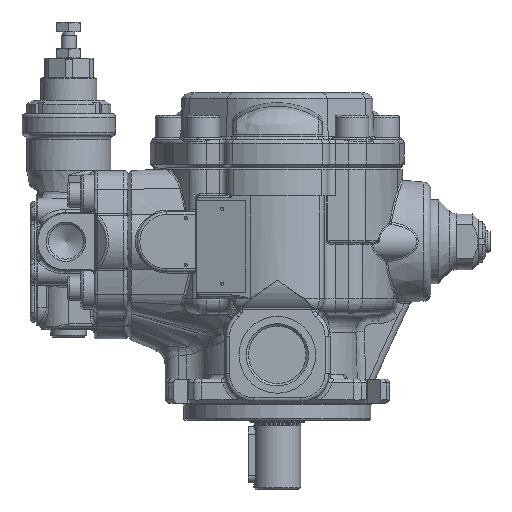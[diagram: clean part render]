
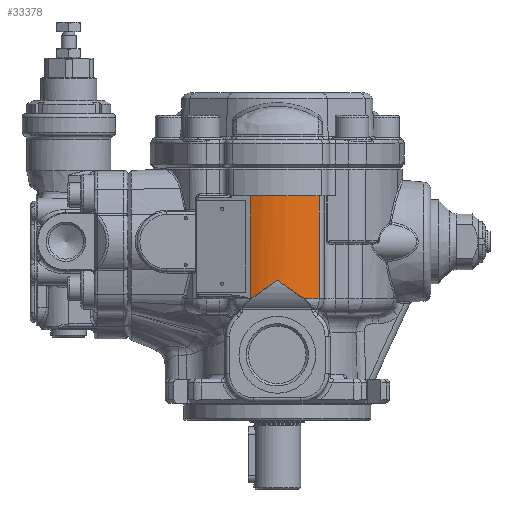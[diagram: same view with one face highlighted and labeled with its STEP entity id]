
A CAD part, left-side view. The second image highlights one B-rep face of the part: STEP entity #33378.
In plain terms, the highlighted cylindrical face has radius 40 mm (diameter 80 mm), a partial arc.
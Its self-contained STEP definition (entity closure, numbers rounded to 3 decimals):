
#2146=LINE('',#53263,#3723);
#2153=LINE('',#53295,#3730);
#3723=VECTOR('',#41405,10.);
#3730=VECTOR('',#41416,10.);
#5000=CYLINDRICAL_SURFACE('',#36087,40.);
#5947=FACE_OUTER_BOUND('',#7984,.T.);
#7984=EDGE_LOOP('',(#23471,#23472,#23473,#23474,#23475,#23476,#23477,#23478));
#9767=B_SPLINE_CURVE_WITH_KNOTS('',3,(#53811,#53812,#53813,#53814,#53815,
#53816),.UNSPECIFIED.,.F.,.F.,(4,2,4),(-1.76,0.,0.003),
 .UNSPECIFIED.);
#9768=B_SPLINE_CURVE_WITH_KNOTS('',3,(#53818,#53819,#53820,#53821,#53822,
#53823,#53824,#53825,#53826,#53827,#53828,#53829),.UNSPECIFIED.,.F.,.F.,
(4,2,2,2,2,4),(0.,0.,0.006,0.008,
0.01,0.01),.UNSPECIFIED.);
#9769=B_SPLINE_CURVE_WITH_KNOTS('',3,(#53830,#53831,#53832,#53833,#53834,
#53835),.UNSPECIFIED.,.F.,.F.,(4,2,4),(-1.763,-1.76,
0.),.UNSPECIFIED.);
#11172=CIRCLE('',#36038,40.);
#11197=CIRCLE('',#36085,40.);
#11199=CIRCLE('',#36088,40.);
#13543=VERTEX_POINT('',#53247);
#13545=VERTEX_POINT('',#53262);
#13553=VERTEX_POINT('',#53292);
#13554=VERTEX_POINT('',#53294);
#13652=VERTEX_POINT('',#53795);
#13654=VERTEX_POINT('',#53801);
#13655=VERTEX_POINT('',#53809);
#13656=VERTEX_POINT('',#53810);
#17126=EDGE_CURVE('',#13545,#13543,#2146,.T.);
#17136=EDGE_CURVE('',#13553,#13554,#2153,.T.);
#17174=EDGE_CURVE('',#13553,#13545,#11172,.T.);
#17265=EDGE_CURVE('',#13652,#13654,#11197,.T.);
#17268=EDGE_CURVE('',#13655,#13656,#9767,.T.);
#17269=EDGE_CURVE('',#13554,#13655,#11199,.T.);
#17270=EDGE_CURVE('',#13654,#13543,#9768,.F.);
#17271=EDGE_CURVE('',#13656,#13652,#9769,.T.);
#23471=ORIENTED_EDGE('',*,*,#17268,.F.);
#23472=ORIENTED_EDGE('',*,*,#17269,.F.);
#23473=ORIENTED_EDGE('',*,*,#17136,.F.);
#23474=ORIENTED_EDGE('',*,*,#17174,.T.);
#23475=ORIENTED_EDGE('',*,*,#17126,.T.);
#23476=ORIENTED_EDGE('',*,*,#17270,.F.);
#23477=ORIENTED_EDGE('',*,*,#17265,.F.);
#23478=ORIENTED_EDGE('',*,*,#17271,.F.);
#33378=ADVANCED_FACE('',(#5947),#5000,.T.);
#36038=AXIS2_PLACEMENT_3D('',#53382,#41486,#41487);
#36085=AXIS2_PLACEMENT_3D('',#53802,#41609,#41610);
#36087=AXIS2_PLACEMENT_3D('',#53808,#41613,#41614);
#36088=AXIS2_PLACEMENT_3D('',#53817,#41615,#41616);
#41405=DIRECTION('',(0.,0.,-1.));
#41416=DIRECTION('',(0.,0.,-1.));
#41486=DIRECTION('center_axis',(0.,0.,-1.));
#41487=DIRECTION('ref_axis',(0.829,-0.559,0.));
#41609=DIRECTION('center_axis',(0.,0.,-1.));
#41610=DIRECTION('ref_axis',(-1.,0.,0.));
#41613=DIRECTION('center_axis',(0.,0.,-1.));
#41614=DIRECTION('ref_axis',(0.829,-0.559,0.));
#41615=DIRECTION('center_axis',(0.,0.,-1.));
#41616=DIRECTION('ref_axis',(-1.,0.,0.));
#53247=CARTESIAN_POINT('',(56.257,4.667,21.862));
#53262=CARTESIAN_POINT('',(56.257,4.667,76.783));
#53263=CARTESIAN_POINT('',(56.257,4.667,91.783));
#53292=CARTESIAN_POINT('',(60.375,-32.16,76.783));
#53294=CARTESIAN_POINT('',(60.375,-32.16,21.783));
#53295=CARTESIAN_POINT('',(60.375,-32.16,91.783));
#53382=CARTESIAN_POINT('Origin',(93.547,-9.807,76.783));
#53795=CARTESIAN_POINT('',(56.251,4.651,21.783));
#53801=CARTESIAN_POINT('',(56.268,4.694,21.783));
#53802=CARTESIAN_POINT('Origin',(93.547,-9.807,21.783));
#53808=CARTESIAN_POINT('Origin',(93.547,-9.807,91.783));
#53809=CARTESIAN_POINT('',(56.251,-24.265,21.783));
#53810=CARTESIAN_POINT('',(53.547,-9.807,31.783));
#53811=CARTESIAN_POINT('Ctrl Pts',(56.251,-24.265,21.783));
#53812=CARTESIAN_POINT('Ctrl Pts',(54.433,-19.574,24.905));
#53813=CARTESIAN_POINT('Ctrl Pts',(53.55,-14.672,28.36));
#53814=CARTESIAN_POINT('Ctrl Pts',(53.547,-9.824,31.771));
#53815=CARTESIAN_POINT('Ctrl Pts',(53.547,-9.815,31.777));
#53816=CARTESIAN_POINT('Ctrl Pts',(53.547,-9.807,31.783));
#53817=CARTESIAN_POINT('Origin',(93.547,-9.807,21.783));
#53818=CARTESIAN_POINT('Ctrl Pts',(56.257,4.667,21.862));
#53819=CARTESIAN_POINT('Ctrl Pts',(56.257,4.667,21.862));
#53820=CARTESIAN_POINT('Ctrl Pts',(56.257,4.667,21.862));
#53821=CARTESIAN_POINT('Ctrl Pts',(56.258,4.667,21.843));
#53822=CARTESIAN_POINT('Ctrl Pts',(56.259,4.67,21.827));
#53823=CARTESIAN_POINT('Ctrl Pts',(56.261,4.677,21.808));
#53824=CARTESIAN_POINT('Ctrl Pts',(56.262,4.68,21.802));
#53825=CARTESIAN_POINT('Ctrl Pts',(56.265,4.686,21.792));
#53826=CARTESIAN_POINT('Ctrl Pts',(56.266,4.689,21.787));
#53827=CARTESIAN_POINT('Ctrl Pts',(56.268,4.694,21.783));
#53828=CARTESIAN_POINT('Ctrl Pts',(56.268,4.694,21.783));
#53829=CARTESIAN_POINT('Ctrl Pts',(56.268,4.694,21.783));
#53830=CARTESIAN_POINT('Ctrl Pts',(53.547,-9.807,31.783));
#53831=CARTESIAN_POINT('Ctrl Pts',(53.547,-9.799,31.777));
#53832=CARTESIAN_POINT('Ctrl Pts',(53.547,-9.79,31.771));
#53833=CARTESIAN_POINT('Ctrl Pts',(53.55,-4.942,28.36));
#53834=CARTESIAN_POINT('Ctrl Pts',(54.433,-0.04,
24.905));
#53835=CARTESIAN_POINT('Ctrl Pts',(56.251,4.651,21.783));
